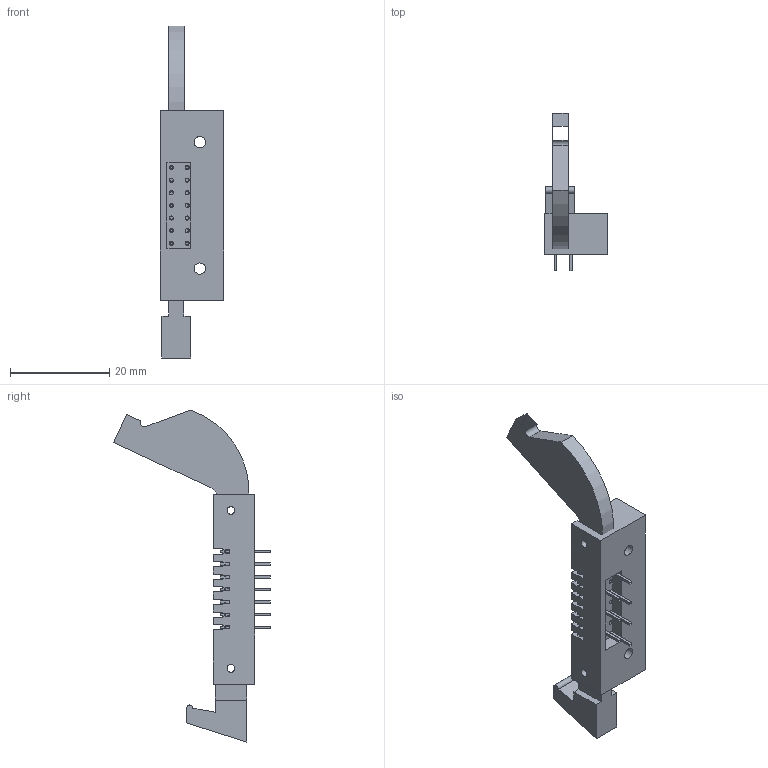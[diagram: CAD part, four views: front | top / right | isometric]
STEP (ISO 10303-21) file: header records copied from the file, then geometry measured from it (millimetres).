
FILE_DESCRIPTION (( 'STEP AP214' ), '1' );
FILE_NAME ('CONNECTOR, AZIMUTH 5A REVERSED, OPEN.STEP', '2014-07-18T16:23:15', ( '' ), ( '' ), 'SwSTEP 2.0', 'SolidWorks 2014', '' );
FILE_SCHEMA (( 'AUTOMOTIVE_DESIGN' ));
Length unit declared in the file: inch
Products named in the file (1): CONNECTOR, AZIMUTH 5A REVERSED, OPEN
Bounding box: 12.7 x 31.55 x 66.74 mm (x, y, z)
Surface area: 4327 mm2 (no closed solid volume)
Topology: 0 solids, 10 shells, 247 faces, 957 edges, 681 vertices
Faces by surface type: plane 202, cylinder 45
Full cylindrical faces by diameter (mm): 0.813 x11, 1.575 x4, 2.261 x2, 4.115 x2
Entity records: 12922 total; most frequent: CARTESIAN_POINT 1839, DIRECTION 1571, ORIENTED_EDGE 1472, EDGE_CURVE 924, LINE 773, VECTOR 773, VERTEX_POINT 667, AXIS2_PLACEMENT_3D 399
